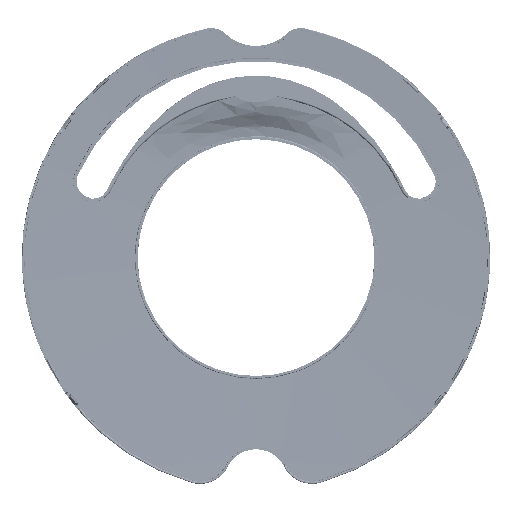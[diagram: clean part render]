
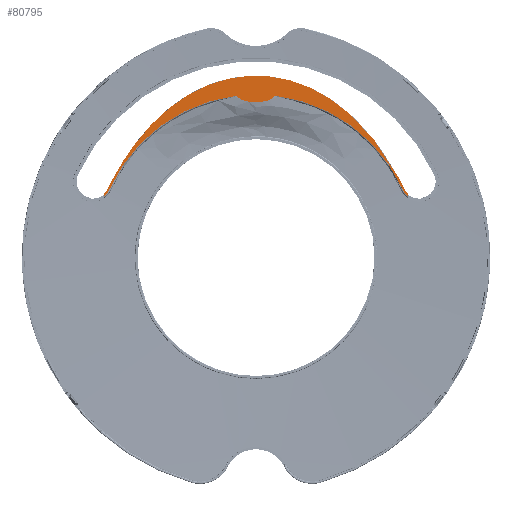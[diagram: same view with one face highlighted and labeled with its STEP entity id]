
A CAD part, front view. The second image highlights one B-rep face of the part: STEP entity #80795.
In plain terms, the highlighted planar face has unit normal (0, -1, 0).
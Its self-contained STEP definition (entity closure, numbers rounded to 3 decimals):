
#31279=CARTESIAN_POINT('',(0.002,34.55,97.495));
#31280=CARTESIAN_POINT('',(0.954,34.55,97.502));
#31281=CARTESIAN_POINT('',(2.768,34.55,97.6));
#31282=CARTESIAN_POINT('',(5.214,34.55,97.942));
#31283=CARTESIAN_POINT('',(7.394,34.55,98.483));
#31284=CARTESIAN_POINT('',(9.28,34.55,99.25));
#31285=CARTESIAN_POINT('',(10.807,34.55,100.288));
#31286=CARTESIAN_POINT('',(11.496,34.55,101.117));
#31287=CARTESIAN_POINT('',(11.769,34.55,101.568));
#31312=CARTESIAN_POINT('',(0.002,34.55,97.495));
#31337=CARTESIAN_POINT('',(-102.264,34.55,47.612));
#31338=DIRECTION('',(0.,1.,0.));
#31339=DIRECTION('',(0.912,0.,-0.411));
#31340=AXIS2_PLACEMENT_3D('',#31337,#31338,#31339);
#31342=DIRECTION('',(0.,0.,1.));
#31343=VECTOR('',#31342,1.363);
#31344=CARTESIAN_POINT('',(-95.5,34.55,38.389));
#31345=LINE('',#31344,#31343);
#31346=CARTESIAN_POINT('',(-102.264,34.55,47.612));
#31347=DIRECTION('',(0.,1.,0.));
#31348=DIRECTION('',(0.912,0.,-0.411));
#31349=AXIS2_PLACEMENT_3D('',#31346,#31347,#31348);
#31351=CARTESIAN_POINT('',(0.,34.55,1.527));
#31352=DIRECTION('',(0.,1.,0.));
#31353=DIRECTION('',(-0.912,0.,0.411));
#31354=AXIS2_PLACEMENT_3D('',#31351,#31352,#31353);
#31356=CARTESIAN_POINT('',(89.498,34.55,50.036));
#31357=CARTESIAN_POINT('',(65.662,34.55,94.013));
#31358=CARTESIAN_POINT('',(0.,34.554,
134.139));
#31359=CARTESIAN_POINT('',(-65.662,34.55,94.013));
#31360=CARTESIAN_POINT('',(-89.498,34.55,50.036));
#31362=CARTESIAN_POINT('',(0.,34.55,1.527));
#31363=DIRECTION('',(0.,1.,0.));
#31364=DIRECTION('',(0.879,0.,0.477));
#31365=AXIS2_PLACEMENT_3D('',#31362,#31363,#31364);
#31367=CARTESIAN_POINT('',(102.264,34.55,47.612));
#31368=DIRECTION('',(0.,1.,0.));
#31369=DIRECTION('',(-0.652,0.,-0.758));
#31370=AXIS2_PLACEMENT_3D('',#31367,#31368,#31369);
#31372=DIRECTION('',(0.,0.,1.));
#31373=VECTOR('',#31372,1.363);
#31374=CARTESIAN_POINT('',(95.5,34.55,38.389));
#31375=LINE('',#31374,#31373);
#31376=CARTESIAN_POINT('',(102.264,34.55,47.612));
#31377=DIRECTION('',(0.,1.,0.));
#31378=DIRECTION('',(-0.591,0.,-0.806));
#31379=AXIS2_PLACEMENT_3D('',#31376,#31377,#31378);
#31381=CARTESIAN_POINT('',(0.,34.55,1.527));
#31382=DIRECTION('',(0.,-1.,0.));
#31383=DIRECTION('',(0.912,0.,0.411));
#31384=AXIS2_PLACEMENT_3D('',#31381,#31382,#31383);
#31386=CARTESIAN_POINT('',(0.,34.55,1.527));
#31387=DIRECTION('',(0.,-1.,0.));
#31388=DIRECTION('',(-0.119,0.,0.993));
#31389=AXIS2_PLACEMENT_3D('',#31386,#31387,#31388);
#31422=CARTESIAN_POINT('',(95.5,34.55,38.389));
#31584=CARTESIAN_POINT('',(-95.5,34.55,38.389));
#31671=CARTESIAN_POINT('',(-12.01,34.55,101.539));
#31672=CARTESIAN_POINT('',(-11.737,34.55,101.08));
#31673=CARTESIAN_POINT('',(-11.041,34.55,100.238));
#31674=CARTESIAN_POINT('',(-9.486,34.55,99.191));
#31675=CARTESIAN_POINT('',(-7.561,34.55,98.426));
#31676=CARTESIAN_POINT('',(-5.335,34.55,97.892));
#31677=CARTESIAN_POINT('',(-2.834,34.55,97.566));
#31678=CARTESIAN_POINT('',(-0.975,34.55,97.488));
#31679=CARTESIAN_POINT('',(0.002,34.55,97.495));
#41205=VERTEX_POINT('',#31312);
#41306=CARTESIAN_POINT('',(89.498,34.55,50.036));
#41307=CARTESIAN_POINT('',(92.81,34.55,43.351));
#41308=VERTEX_POINT('',#41306);
#41309=VERTEX_POINT('',#41307);
#41310=VERTEX_POINT('',#31360);
#41311=CARTESIAN_POINT('',(-92.81,34.55,43.351));
#41312=VERTEX_POINT('',#41311);
#41321=CARTESIAN_POINT('',(95.5,34.55,39.752));
#41322=VERTEX_POINT('',#41321);
#41323=CARTESIAN_POINT('',(-95.5,34.55,39.752));
#41324=VERTEX_POINT('',#41323);
#41360=VERTEX_POINT('',#31584);
#41361=CARTESIAN_POINT('',(-91.837,34.55,42.912));
#41362=VERTEX_POINT('',#41361);
#41367=CARTESIAN_POINT('',(-12.01,34.55,101.539));
#41368=VERTEX_POINT('',#41367);
#41369=CARTESIAN_POINT('',(91.837,34.55,42.912));
#41370=CARTESIAN_POINT('',(11.769,34.55,101.568));
#41371=VERTEX_POINT('',#41369);
#41372=VERTEX_POINT('',#41370);
#41377=VERTEX_POINT('',#31422);
#80763=CARTESIAN_POINT('',(0.,34.55,0.));
#80764=DIRECTION('',(0.,-1.,0.));
#80765=DIRECTION('',(0.,0.,-1.));
#80766=AXIS2_PLACEMENT_3D('',#80763,#80764,#80765);
#80767=PLANE('',#80766);
#80769=ORIENTED_EDGE('',*,*,#80768,.T.);
#80771=ORIENTED_EDGE('',*,*,#80770,.T.);
#80773=ORIENTED_EDGE('',*,*,#80772,.F.);
#80775=ORIENTED_EDGE('',*,*,#80774,.T.);
#80777=ORIENTED_EDGE('',*,*,#80776,.F.);
#80779=ORIENTED_EDGE('',*,*,#80778,.T.);
#80781=ORIENTED_EDGE('',*,*,#80780,.F.);
#80783=ORIENTED_EDGE('',*,*,#80782,.F.);
#80785=ORIENTED_EDGE('',*,*,#80784,.T.);
#80787=ORIENTED_EDGE('',*,*,#80786,.T.);
#80788=ORIENTED_EDGE('',*,*,#80725,.F.);
#80790=ORIENTED_EDGE('',*,*,#80789,.F.);
#80792=ORIENTED_EDGE('',*,*,#80791,.T.);
#80793=EDGE_LOOP('',(#80769,#80771,#80773,#80775,#80777,#80779,#80781,#80783,
#80785,#80787,#80788,#80790,#80792));
#80794=FACE_OUTER_BOUND('',#80793,.F.);
#80795=ADVANCED_FACE('',(#80794),#80767,.T.);
#31288=B_SPLINE_CURVE_WITH_KNOTS('',3,(#31279,#31280,#31281,#31282,#31283,
#31284,#31285,#31286,#31287),.UNSPECIFIED.,.F.,.F.,(4,1,1,1,1,1,4),(0.,
0.167,0.333,0.5,0.667,0.833,
1.),.UNSPECIFIED.);
#31341=CIRCLE('',#31340,11.437);
#31350=CIRCLE('',#31349,10.37);
#31355=CIRCLE('',#31354,101.799);
#31361=B_SPLINE_CURVE_WITH_KNOTS('',3,(#31356,#31357,#31358,#31359,#31360),
.UNSPECIFIED.,.F.,.F.,(4,1,4),(0.,0.5,1.),.UNSPECIFIED.);
#31366=CIRCLE('',#31365,101.799);
#31371=CIRCLE('',#31370,10.37);
#31380=CIRCLE('',#31379,11.437);
#31385=CIRCLE('',#31384,100.731);
#31390=CIRCLE('',#31389,100.731);
#31680=B_SPLINE_CURVE_WITH_KNOTS('',3,(#31671,#31672,#31673,#31674,#31675,
#31676,#31677,#31678,#31679),.UNSPECIFIED.,.F.,.F.,(4,1,1,1,1,1,4),(0.,
0.167,0.333,0.5,0.667,0.833,
1.),.UNSPECIFIED.);
#80725=EDGE_CURVE('',#41205,#41372,#31288,.T.);
#80768=EDGE_CURVE('',#41362,#41360,#31341,.T.);
#80770=EDGE_CURVE('',#41360,#41324,#31345,.T.);
#80772=EDGE_CURVE('',#41312,#41324,#31350,.T.);
#80774=EDGE_CURVE('',#41312,#41310,#31355,.T.);
#80776=EDGE_CURVE('',#41308,#41310,#31361,.T.);
#80778=EDGE_CURVE('',#41308,#41309,#31366,.T.);
#80780=EDGE_CURVE('',#41322,#41309,#31371,.T.);
#80782=EDGE_CURVE('',#41377,#41322,#31375,.T.);
#80784=EDGE_CURVE('',#41377,#41371,#31380,.T.);
#80786=EDGE_CURVE('',#41371,#41372,#31385,.T.);
#80789=EDGE_CURVE('',#41368,#41205,#31680,.T.);
#80791=EDGE_CURVE('',#41368,#41362,#31390,.T.);
